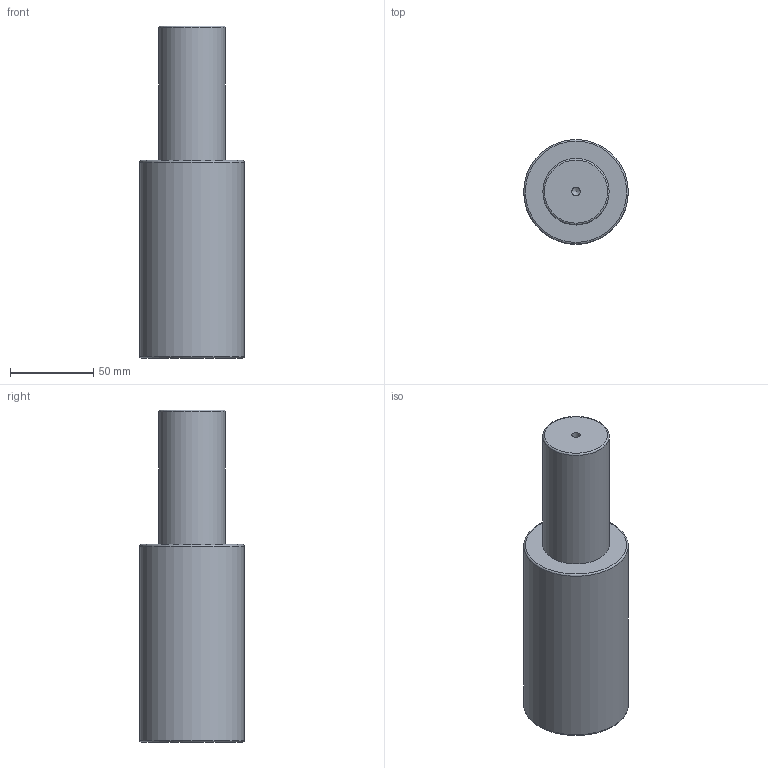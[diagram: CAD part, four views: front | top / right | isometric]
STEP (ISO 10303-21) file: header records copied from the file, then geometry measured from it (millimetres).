
FILE_DESCRIPTION(/* description */ (''),/* implementation_level */ '2;1');
FILE_NAME(/* name */ 'NV5-SMLX.63x80.stp',/* time_stamp */ '2018-08-31T16:08:30+02:00',/* author */ (''),/* organization */ (''),/* preprocessor_version */ 'ST-DEVELOPER v16',/* originating_system */ 'SIEMENS PLM Software NX 10.0',/* authorisation */ '');
FILE_SCHEMA (('AUTOMOTIVE_DESIGN { 1 0 10303 214 3 1 1 1 }'));
Length unit declared in the file: millimetre
Products named in the file (1): NV5-SMLX.63x80
Bounding box: 63 x 63 x 200 mm (x, y, z)
Volume: 471219.8 mm3; surface area: 40460.2 mm2
Topology: 1 solids, 1 shells, 12 faces, 24 edges, 15 vertices
Faces by surface type: cylinder 4, torus 3, plane 3, cone 2
Full cylindrical faces by diameter (mm): 5 x1, 8.5 x1, 40 x1, 63 x1
Entity records: 266 total; most frequent: DIRECTION 48, CARTESIAN_POINT 37, FACE_BOUND 24, AXIS2_PLACEMENT_3D 24, EDGE_LOOP 22, ORIENTED_EDGE 22, VERTEX_POINT 13, ADVANCED_FACE 12
